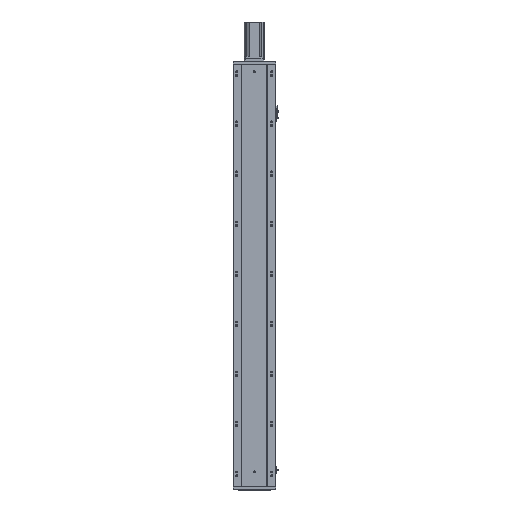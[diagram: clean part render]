
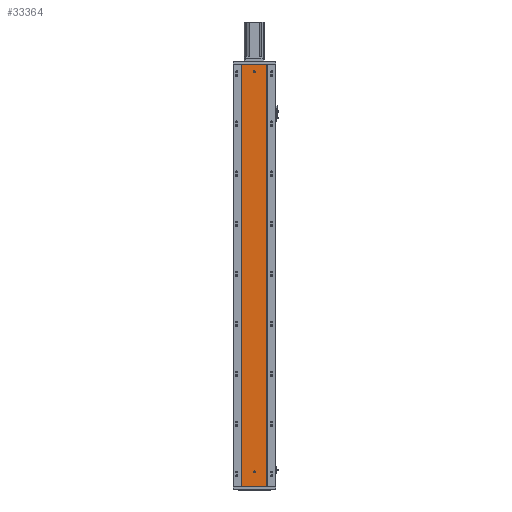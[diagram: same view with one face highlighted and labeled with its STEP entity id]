
A CAD part, front view. The second image highlights one B-rep face of the part: STEP entity #33364.
In plain terms, the highlighted planar face has unit normal (0, -1, 0).
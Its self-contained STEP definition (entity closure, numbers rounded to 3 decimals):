
#1001 = CARTESIAN_POINT ( 'NONE',  ( 136.47, 79.476, 56. ) ) ;
#1006 = CARTESIAN_POINT ( 'NONE',  ( 136.47, 79.476, 1656. ) ) ;
#1018 = CARTESIAN_POINT ( 'NONE',  ( 136.47, 79.476, 1664. ) ) ;
#1029 = CARTESIAN_POINT ( 'NONE',  ( 136.47, 79.476, 64. ) ) ;
#3599 = CIRCLE ( 'NONE', #18000, 4. ) ;
#3615 = CIRCLE ( 'NONE', #17991, 4. ) ;
#3860 = VERTEX_POINT ( 'NONE', #12768 ) ;
#5128 = DIRECTION ( 'NONE',  ( 0., 0., 1. ) ) ;
#5155 = PLANE ( 'NONE',  #16789 ) ;
#5165 = DIRECTION ( 'NONE',  ( 0., 1., 0. ) ) ;
#5167 = CARTESIAN_POINT ( 'NONE',  ( 0., 79.476, 1690. ) ) ;
#9369 = EDGE_LOOP ( 'NONE', ( #37828, #37784, #37792, #37738 ) ) ;
#9386 = EDGE_LOOP ( 'NONE', ( #37928, #37901 ) ) ;
#9442 = EDGE_LOOP ( 'NONE', ( #37925, #37827 ) ) ;
#10330 = DIRECTION ( 'NONE',  ( 1., 0., 0. ) ) ;
#10338 = CARTESIAN_POINT ( 'NONE',  ( 0., 79.476, 0. ) ) ;
#10339 = CARTESIAN_POINT ( 'NONE',  ( 136.47, 79.476, 1660. ) ) ;
#10340 = DIRECTION ( 'NONE',  ( 0., 0., -1. ) ) ;
#10356 = DIRECTION ( 'NONE',  ( 0., -1., 0. ) ) ;
#10368 = DIRECTION ( 'NONE',  ( 0., -1., 0. ) ) ;
#10384 = CARTESIAN_POINT ( 'NONE',  ( 136.47, 79.476, 60. ) ) ;
#10386 = DIRECTION ( 'NONE',  ( 0., 0., -1. ) ) ;
#10401 = CARTESIAN_POINT ( 'NONE',  ( 86.97, 79.476, 1690. ) ) ;
#10409 = CARTESIAN_POINT ( 'NONE',  ( 185.97, 79.476, 0. ) ) ;
#10418 = CARTESIAN_POINT ( 'NONE',  ( 0., 79.476, 1690. ) ) ;
#10419 = DIRECTION ( 'NONE',  ( 1., 0., 0. ) ) ;
#10420 = CARTESIAN_POINT ( 'NONE',  ( 86.97, 79.476, 0. ) ) ;
#10436 = CARTESIAN_POINT ( 'NONE',  ( 86.97, 79.476, 563.333 ) ) ;
#10437 = CARTESIAN_POINT ( 'NONE',  ( 185.97, 79.476, 1126.667 ) ) ;
#10440 = CARTESIAN_POINT ( 'NONE',  ( 185.97, 79.476, 563.333 ) ) ;
#10443 = CARTESIAN_POINT ( 'NONE',  ( 86.97, 79.476, 1126.667 ) ) ;
#10448 = CARTESIAN_POINT ( 'NONE',  ( 185.97, 79.476, 1690. ) ) ;
#12768 = CARTESIAN_POINT ( 'NONE',  ( 86.97, 79.476, 0. ) ) ;
#16789 = AXIS2_PLACEMENT_3D ( 'NONE', #5167, #5165, #5128 ) ;
#17991 = AXIS2_PLACEMENT_3D ( 'NONE', #40120, #40147, #40137 ) ;
#18000 = AXIS2_PLACEMENT_3D ( 'NONE', #40185, #40201, #40183 ) ;
#19481 = FACE_BOUND ( 'NONE', #9442, .T. ) ;
#19508 = FACE_OUTER_BOUND ( 'NONE', #9369, .T. ) ;
#19511 = FACE_BOUND ( 'NONE', #9386, .T. ) ;
#21000 = LINE ( 'NONE', #10418, #21045 ) ;
#21025 = VECTOR ( 'NONE', #10330, 1000. ) ;
#21031 = CIRCLE ( 'NONE', #28409, 4. ) ;
#21045 = VECTOR ( 'NONE', #10419, 1000. ) ;
#21049 = LINE ( 'NONE', #10338, #21025 ) ;
#21050 = CIRCLE ( 'NONE', #28433, 4. ) ;
#23801 = VERTEX_POINT ( 'NONE', #1029 ) ;
#23810 = VERTEX_POINT ( 'NONE', #1006 ) ;
#23820 = VERTEX_POINT ( 'NONE', #1001 ) ;
#23822 = VERTEX_POINT ( 'NONE', #1018 ) ;
#28409 = AXIS2_PLACEMENT_3D ( 'NONE', #10384, #10368, #10386 ) ;
#28433 = AXIS2_PLACEMENT_3D ( 'NONE', #10339, #10356, #10340 ) ;
#32517 = CARTESIAN_POINT ( 'NONE',  ( 185.97, 79.476, 0. ) ) ;
#32594 = CARTESIAN_POINT ( 'NONE',  ( 86.97, 79.476, 1690. ) ) ;
#32598 = CARTESIAN_POINT ( 'NONE',  ( 185.97, 79.476, 1690. ) ) ;
#33364 = ADVANCED_FACE ( 'NONE', ( #19511, #19481, #19508 ), #5155, .F. ) ;
#35533 = EDGE_CURVE ( 'NONE', #23822, #23810, #3615, .T. ) ;
#35540 = EDGE_CURVE ( 'NONE', #23801, #23820, #3599, .T. ) ;
#37738 = ORIENTED_EDGE ( 'NONE', *, *, #45562, .T. ) ;
#37784 = ORIENTED_EDGE ( 'NONE', *, *, #45561, .F. ) ;
#37792 = ORIENTED_EDGE ( 'NONE', *, *, #45567, .F. ) ;
#37827 = ORIENTED_EDGE ( 'NONE', *, *, #35540, .F. ) ;
#37828 = ORIENTED_EDGE ( 'NONE', *, *, #45534, .T. ) ;
#37901 = ORIENTED_EDGE ( 'NONE', *, *, #35533, .F. ) ;
#37925 = ORIENTED_EDGE ( 'NONE', *, *, #45554, .F. ) ;
#37928 = ORIENTED_EDGE ( 'NONE', *, *, #45535, .F. ) ;
#40120 = CARTESIAN_POINT ( 'NONE',  ( 136.47, 79.476, 1660. ) ) ;
#40137 = DIRECTION ( 'NONE',  ( 0., 0., -1. ) ) ;
#40147 = DIRECTION ( 'NONE',  ( 0., -1., 0. ) ) ;
#40183 = DIRECTION ( 'NONE',  ( 0., 0., -1. ) ) ;
#40185 = CARTESIAN_POINT ( 'NONE',  ( 136.47, 79.476, 60. ) ) ;
#40201 = DIRECTION ( 'NONE',  ( 0., -1., 0. ) ) ;
#41290 = VERTEX_POINT ( 'NONE', #32517 ) ;
#41503 = VERTEX_POINT ( 'NONE', #32598 ) ;
#41562 = VERTEX_POINT ( 'NONE', #32594 ) ;
#45534 = EDGE_CURVE ( 'NONE', #3860, #41290, #21049, .T. ) ;
#45535 = EDGE_CURVE ( 'NONE', #23810, #23822, #21050, .T. ) ;
#45554 = EDGE_CURVE ( 'NONE', #23820, #23801, #21031, .T. ) ;
#45561 = EDGE_CURVE ( 'NONE', #41503, #41290, #49495, .T. ) ;
#45562 = EDGE_CURVE ( 'NONE', #41562, #3860, #49499, .T. ) ;
#45567 = EDGE_CURVE ( 'NONE', #41562, #41503, #21000, .T. ) ;
#49495 = B_SPLINE_CURVE_WITH_KNOTS ( 'NONE', 3,
 ( #10448, #10437, #10440, #10409 ),
 .UNSPECIFIED., .F., .F.,
 ( 4, 4 ),
 ( 0., 1. ),
 .UNSPECIFIED. ) ;
#49499 = B_SPLINE_CURVE_WITH_KNOTS ( 'NONE', 3,
 ( #10401, #10443, #10436, #10420 ),
 .UNSPECIFIED., .F., .F.,
 ( 4, 4 ),
 ( 0., 1. ),
 .UNSPECIFIED. ) ;
